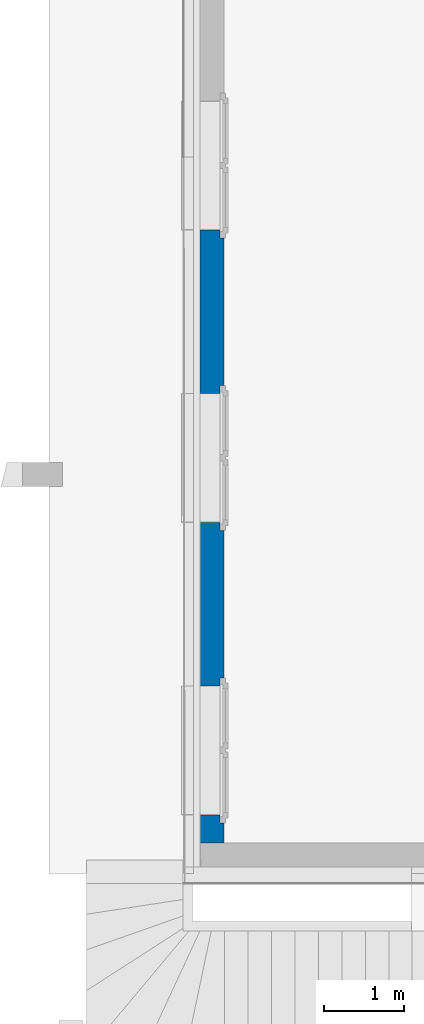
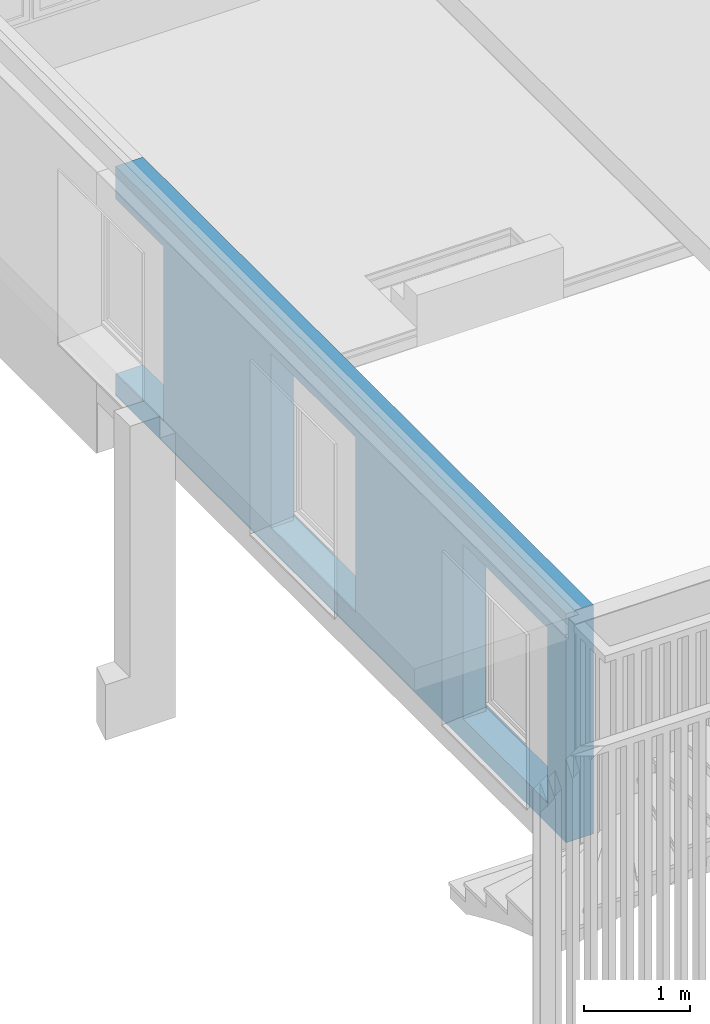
# One storey, part 3 of 20: 1 wall, 3 openings.
"""IFC4 building model written with IfcOpenShell, lengths in millimetres."""

from ifc_helpers import new_model, entity, si_unit, converted_unit, derived_unit, direction, frame, origin_with_axes, place, context, subcontext, project, spatial, polygons, material, constituent, constituent_set, type_object, element, save


model = new_model("IFC4")

# Units and contexts
model_context = context("Model", 3, precision=0.01, world=origin_with_axes(), true_north=direction((0.0, 1.0)))
body_context = subcontext(model_context, "Body", "Model", "MODEL_VIEW")
ifc_project = project(units=[si_unit("LENGTHUNIT", "METRE", prefix="MILLI"), si_unit("AREAUNIT", "SQUARE_METRE"), si_unit("VOLUMEUNIT", "CUBIC_METRE"), converted_unit("PLANEANGLEUNIT", "DEGREE", entity("IfcPlaneAngleMeasure", 0.0174532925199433), si_unit("PLANEANGLEUNIT", "RADIAN"), dimensions=[0, 0, 0, 0, 0, 0, 0]), converted_unit("TIMEUNIT", "Year", entity("IfcTimeMeasure", 31557600.0), si_unit("TIMEUNIT", "SECOND"), dimensions=[0, 0, 1, 0, 0, 0, 0]), si_unit("MASSUNIT", "GRAM", prefix="KILO"), si_unit("THERMODYNAMICTEMPERATUREUNIT", "DEGREE_CELSIUS"), si_unit("LUMINOUSINTENSITYUNIT", "LUMEN"), si_unit("ENERGYUNIT", "JOULE", prefix="MEGA"), derived_unit("THERMALCONDUCTANCEUNIT", [(si_unit("POWERUNIT", "WATT"), 1), (si_unit("LENGTHUNIT", "METRE"), -1), (si_unit("THERMODYNAMICTEMPERATUREUNIT", "KELVIN"), -1)]), derived_unit("SPECIFICHEATCAPACITYUNIT", [(si_unit("ENERGYUNIT", "JOULE"), 1), (si_unit("MASSUNIT", "GRAM", prefix="KILO"), -1), (si_unit("THERMODYNAMICTEMPERATUREUNIT", "KELVIN"), -1)]), derived_unit("MASSDENSITYUNIT", [(si_unit("MASSUNIT", "GRAM", prefix="KILO"), 1), (si_unit("VOLUMEUNIT", "CUBIC_METRE"), -1)])], contexts=[model_context])

# Site, building, storey
site_placement = place(None, origin_with_axes())
site = spatial("IfcSite", under=ifc_project, at=site_placement, Name="Gelände", CompositionType="ELEMENT")
building_placement = place(site_placement, origin_with_axes())
building = spatial("IfcBuilding", under=site, at=building_placement, Name="Gebäude", CompositionType="ELEMENT")
storey_placement = place(building_placement, frame((0.0, 0.0, 5.198845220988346e-05), z_axis=(0.0, 0.0, 1.0), x_axis=(1.0, 0.0, 0.0)))
storey = spatial("IfcBuildingStorey", under=building, at=storey_placement, Name="EG", CompositionType="ELEMENT", Elevation=0.0)

# Wall, openings
ifc_material = material(Name="Beton bewehrt")
ifc_constituent = constituent(ifc_material, Name="Beton bewehrt")
ifc_constituent_set = constituent_set(constituents=[ifc_constituent], Name="Aussenwand Typ 05")
wall_type = type_object("IfcWallType", Name="Aussenwand Typ 05 300", PredefinedType="NOTDEFINED")
wall_placement = place(storey_placement, frame((-6861.004181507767, 31997.59699912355, 0.0), z_axis=(0.0, 0.0, 1.0), x_axis=(0.0, -1.0, 0.0)))
wall = element("IfcWall", 1, at=wall_placement, inside=storey, type_object=wall_type, material=ifc_constituent_set, Name="Wand-014", PredefinedType="NOTDEFINED", context=body_context, shape_type="Tessellation", body=[
    polygons([(6585.999717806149, 250.0, 249.9999481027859), (6585.999717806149, 250.0, 2271.999948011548), (6585.999717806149, 0.0, 2271.999948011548), (6585.999717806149, 0.0, 249.9999481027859), (8189.999717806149, 250.0, 2271.999948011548), (6485.999717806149, 250.0, 249.9999481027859), (6485.999717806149, 250.0, 2371.999948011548), (8289.999717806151, 250.0, 2371.999948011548), (8289.999717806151, 250.0, 249.9999481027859), (8189.999717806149, 250.0, 249.9999481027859), (8189.999717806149, 0.0, 2271.999948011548), (905.9997178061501, 0.0, 2271.999948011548), (905.9997178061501, 0.0, 249.9999481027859), (0.0, 0.0, 249.9999481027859), (0.0, 0.0, 0.0), (8540.000258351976, 0.0, 0.0), (8540.000258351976, 0.0, 2649.999948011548), (0.0, 0.0, 2649.999948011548), (0.0, 0.0, 2271.999948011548), (2943.99971780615, 0.0, 249.9999481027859), (2943.99971780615, 0.0, 2271.999948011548), (4547.999717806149, 0.0, 2271.999948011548), (4547.999717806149, 0.0, 249.9999481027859), (8189.999717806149, 0.0, 249.9999481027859), (8289.999717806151, 300.0000000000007, 249.9999481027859), (6485.999717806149, 299.9999999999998, 249.9999481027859), (6485.999717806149, 299.9999999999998, 2371.999948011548), (8289.999717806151, 300.0000000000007, 2371.999948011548), (905.9997178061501, 250.0, 2271.999948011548), (905.9997178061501, 250.0, 249.9999481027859), (1005.999717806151, 250.0, 249.9999481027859), (1005.999717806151, 299.9999999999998, 249.9999481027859), (0.0, 299.9999999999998, 249.9999481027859), (0.0, 299.9999999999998, 0.0), (8540.000258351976, 300.0000000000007, 0.0), (8540.000258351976, 300.0000000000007, 2649.999948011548), (0.0, 299.9999999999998, 2649.999948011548), (0.0, 250.0000000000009, 2371.999948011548), (0.0, 250.0000000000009, 2271.999948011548), (0.0, 299.9999999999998, 2371.999948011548), (2943.99971780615, 250.0, 249.9999481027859), (2943.99971780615, 250.0, 2271.999948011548), (4547.999717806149, 250.0, 2271.999948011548), (4547.999717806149, 250.0, 249.9999481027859), (2843.999717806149, 250.0, 249.9999481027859), (4647.999717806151, 250.0, 249.9999481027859), (4647.999717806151, 300.0000000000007, 249.9999481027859), (2843.999717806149, 299.9999999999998, 249.9999481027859), (1005.999717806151, 299.9999999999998, 2371.999948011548), (4647.999717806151, 300.0000000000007, 2371.999948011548), (2843.999717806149, 299.9999999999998, 2371.999948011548), (1005.999717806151, 250.0, 2371.999948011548), (2843.999717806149, 250.0, 2371.999948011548), (4647.999717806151, 250.0, 2371.999948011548)], [[[1, 2, 3, 4]], [[5, 2, 1, 6, 7, 8, 9, 10]], [[2, 5, 11, 3]], [[12, 13, 14, 15, 16, 17, 18, 19], [20, 21, 22, 23], [4, 3, 11, 24]], [[10, 9, 25, 26, 6, 1, 4, 24]], [[26, 27, 7, 6]], [[27, 28, 8, 7]], [[28, 25, 9, 8]], [[5, 10, 24, 11]], [[13, 12, 29, 30]], [[30, 31, 32, 33, 14, 13]], [[15, 14, 33, 34]], [[15, 34, 35, 16]], [[36, 17, 16, 35]], [[37, 18, 17, 36]], [[38, 39, 19, 18, 37, 40]], [[12, 19, 39, 29]], [[41, 42, 21, 20]], [[42, 43, 22, 21]], [[43, 44, 23, 22]], [[45, 41, 20, 23, 44, 46, 47, 48]], [[40, 37, 36, 35, 34, 33, 32, 49], [47, 50, 51, 48], [25, 28, 27, 26]], [[39, 38, 52, 31, 30, 29]], [[31, 52, 49, 32]], [[49, 52, 38, 40]], [[53, 54, 46, 44, 43, 42, 41, 45]], [[50, 47, 46, 54]], [[48, 51, 53, 45]], [[51, 50, 54, 53]]], closed=True),
])
opening_1_placement = place(wall_placement, frame((3745.99971780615, 0.0, 309.999948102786), z_axis=(0.0, 0.0, 1.0), x_axis=(1.0, 0.0, 0.0)))
element("IfcOpeningElement", 2, at=opening_1_placement, cuts=wall, Name="Fenster-004", context=body_context, identifier="Reference", shape_type="Tessellation", body=[
    polygons([(-800.0000000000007, -1.000000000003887, 1961.999999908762), (-800.0000000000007, 0.0, 1961.999999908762), (800.0000000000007, 0.0, 1961.999999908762), (800.0000000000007, -1.000000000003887, 1961.999999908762), (801.9999999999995, -1.000000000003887, 1961.999999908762), (801.9999999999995, 250.0, 1961.999999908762), (-801.9999999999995, 250.0, 1961.999999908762), (-801.9999999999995, -1.000000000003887, 1961.999999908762), (-800.0000000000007, -1.000000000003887, 1959.999999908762), (-800.0000000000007, -150.0000000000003, 1959.999999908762), (-800.0000000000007, -150.0000000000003, 2249.999999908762), (-800.0000000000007, 0.0, 2249.999999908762), (800.0000000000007, 0.0, 2249.999999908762), (800.0000000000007, -149.9999999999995, 2249.999999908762), (800.0000000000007, -149.9999999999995, 1959.999999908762), (800.0000000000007, -1.000000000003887, 1959.999999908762), (-801.9999999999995, -1.000000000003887, -60.00000000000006), (801.9999999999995, -1.000000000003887, -60.00000000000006), (801.9999999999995, 250.0, -60.00000000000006), (-801.9999999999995, 250.0, -60.00000000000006), (902.000000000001, 250.0, -60.00000000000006), (902.000000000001, 250.0, 2061.999999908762), (-902.000000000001, 250.0, 2061.999999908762), (-902.000000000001, 250.0, -60.00000000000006), (-902.000000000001, 301.0000000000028, -60.00000000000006), (902.000000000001, 301.0000000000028, -60.00000000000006), (902.000000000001, 301.0000000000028, 2061.999999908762), (-902.000000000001, 301.0000000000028, 2061.999999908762)], [[[1, 2, 3, 4, 5, 6, 7, 8]], [[2, 1, 9, 10, 11, 12]], [[3, 2, 12, 13]], [[4, 3, 13, 14, 15, 16]], [[9, 1, 8, 17, 18, 5, 4, 16]], [[19, 6, 5, 18]], [[20, 7, 6, 19, 21, 22, 23, 24]], [[7, 20, 17, 8]], [[9, 16, 15, 10]], [[11, 10, 15, 14]], [[12, 11, 14, 13]], [[19, 18, 17, 20, 24, 25, 26, 21]], [[22, 21, 26, 27]], [[23, 22, 27, 28]], [[24, 23, 28, 25]], [[27, 26, 25, 28]]], closed=True),
])
opening_2_placement = place(wall_placement, frame((103.9997178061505, 0.0, 309.999948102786), z_axis=(0.0, 0.0, 1.0), x_axis=(1.0, 0.0, 0.0)))
element("IfcOpeningElement", 3, at=opening_2_placement, cuts=wall, Name="Fenster-004", context=body_context, identifier="Reference", shape_type="Tessellation", body=[
    polygons([(-104.9997178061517, -1.00000000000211, 1961.999999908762), (-104.9997178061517, 0.0, 1961.999999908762), (800.0000000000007, 0.0, 1961.999999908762), (800.0000000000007, -1.000000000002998, 1961.999999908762), (801.9999999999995, -1.000000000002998, 1961.999999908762), (801.9999999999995, 250.0, 1961.999999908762), (-802.0000000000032, 250.0000000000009, 1961.999999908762), (-802.0000000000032, -1.00000000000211, 1961.999999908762), (-104.9997178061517, -1.000000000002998, 1959.999999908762), (-104.9997178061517, -149.9999999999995, 1959.999999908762), (-104.9997178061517, -149.9999999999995, 2249.999999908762), (-104.9997178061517, 0.0, 2249.999999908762), (800.0000000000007, 0.0, 2249.999999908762), (800.0000000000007, -149.9999999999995, 2249.999999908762), (800.0000000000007, -149.9999999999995, 1959.999999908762), (800.0000000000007, -1.000000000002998, 1959.999999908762), (-802.0000000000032, -1.000000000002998, -60.00000000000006), (801.9999999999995, -1.000000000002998, -60.00000000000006), (801.9999999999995, 250.0, -60.00000000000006), (-802.0000000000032, 250.0000000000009, -60.00000000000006), (902.000000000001, 250.0, -60.00000000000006), (902.000000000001, 250.0, 2061.999999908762), (-901.9999999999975, 250.0000000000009, 2061.999999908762), (-901.9999999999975, 250.0000000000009, -60.00000000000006), (-901.9999999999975, 301.0000000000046, -60.00000000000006), (902.000000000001, 301.0000000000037, -60.00000000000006), (902.000000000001, 301.0000000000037, 2061.999999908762), (-901.9999999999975, 301.0000000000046, 2061.999999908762)], [[[1, 2, 3, 4, 5, 6, 7, 8]], [[2, 1, 9, 10, 11, 12]], [[3, 2, 12, 13]], [[4, 3, 13, 14, 15, 16]], [[9, 1, 8, 17, 18, 5, 4, 16]], [[19, 6, 5, 18]], [[20, 7, 6, 19, 21, 22, 23, 24]], [[7, 20, 17, 8]], [[9, 16, 15, 10]], [[11, 10, 15, 14]], [[12, 11, 14, 13]], [[19, 18, 17, 20, 24, 25, 26, 21]], [[22, 21, 26, 27]], [[23, 22, 27, 28]], [[24, 23, 28, 25]], [[27, 26, 25, 28]]], closed=True),
])
opening_3_placement = place(wall_placement, frame((7387.999717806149, 0.0, 309.999948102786), z_axis=(0.0, 0.0, 1.0), x_axis=(1.0, 0.0, 0.0)))
element("IfcOpeningElement", 4, at=opening_3_placement, cuts=wall, Name="Fenster-004", context=body_context, identifier="Reference", shape_type="Tessellation", body=[
    polygons([(-800.0000000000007, -1.000000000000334, 1961.999999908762), (-800.0000000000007, 0.0, 1961.999999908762), (800.0000000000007, 0.0, 1961.999999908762), (800.0000000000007, -1.000000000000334, 1961.999999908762), (801.9999999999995, -1.000000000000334, 1961.999999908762), (801.9999999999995, 250.0000000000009, 1961.999999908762), (-801.9999999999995, 250.0000000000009, 1961.999999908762), (-801.9999999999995, -1.000000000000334, 1961.999999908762), (-800.0000000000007, -1.000000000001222, 1959.999999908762), (-800.0000000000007, -149.9999999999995, 1959.999999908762), (-800.0000000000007, -149.9999999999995, 2249.999999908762), (-800.0000000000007, 0.0, 2249.999999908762), (800.0000000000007, 0.0, 2249.999999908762), (800.0000000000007, -149.9999999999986, 2249.999999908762), (800.0000000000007, -149.9999999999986, 1959.999999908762), (800.0000000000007, -1.000000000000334, 1959.999999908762), (-801.9999999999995, -1.000000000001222, -60.00000000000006), (801.9999999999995, -1.000000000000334, -60.00000000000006), (801.9999999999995, 250.0000000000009, -60.00000000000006), (-801.9999999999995, 250.0000000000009, -60.00000000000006), (902.000000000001, 250.0000000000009, -60.00000000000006), (902.000000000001, 250.0000000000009, 2061.999999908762), (-902.000000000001, 250.0000000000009, 2061.999999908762), (-902.000000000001, 250.0000000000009, -60.00000000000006), (-902.000000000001, 301.0000000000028, -60.00000000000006), (902.000000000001, 301.0000000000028, -60.00000000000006), (902.000000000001, 301.0000000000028, 2061.999999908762), (-902.000000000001, 301.0000000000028, 2061.999999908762)], [[[1, 2, 3, 4, 5, 6, 7, 8]], [[2, 1, 9, 10, 11, 12]], [[3, 2, 12, 13]], [[4, 3, 13, 14, 15, 16]], [[9, 1, 8, 17, 18, 5, 4, 16]], [[19, 6, 5, 18]], [[20, 7, 6, 19, 21, 22, 23, 24]], [[7, 20, 17, 8]], [[9, 16, 15, 10]], [[11, 10, 15, 14]], [[12, 11, 14, 13]], [[19, 18, 17, 20, 24, 25, 26, 21]], [[22, 21, 26, 27]], [[23, 22, 27, 28]], [[24, 23, 28, 25]], [[27, 26, 25, 28]]], closed=True),
])

save(model, "model.ifc")
